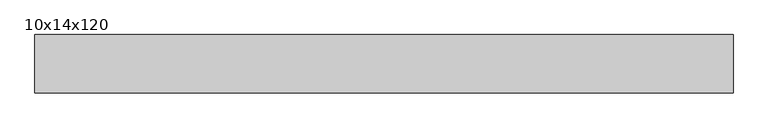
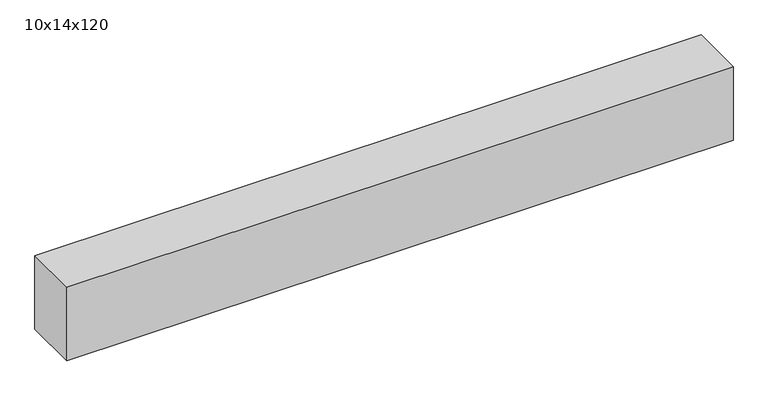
"""IFC4 building model written with IfcOpenShell, lengths in millimetres: beam geometry, Verga-vedacao : 10x14x120."""

from ifc_helpers import new_model, si_unit, frame, origin, place, context, project, spatial, polyline, outline, extrude, source, transform, mapped, element, save


def beam_10x14x120_9fcbaa63(model_context):
    return source(origin(), model_context, "Body", "SweptSolid", [
        extrude(outline(polyline([(600.0, 100.0), (600.0, 0.0), (-600.0, 0.0), (-600.0, 100.0), (600.0, 100.0)])), frame((0.0, 0.0, -140.0), z_axis=(0.0, 0.0, 1.0), x_axis=(1.0, 0.0, 0.0)), (0.0, 0.0, 1.0), 140.0),
    ])


if __name__ == "__main__":
    model = new_model("IFC4")
    model_context = context("Model", 3, world=origin())
    ifc_project = project(units=[si_unit("LENGTHUNIT", "METRE", prefix="MILLI")], contexts=[model_context])
    site = spatial("IfcSite", under=ifc_project)
    building = spatial("IfcBuilding", under=site)
    placement = place(None, origin())
    beam_10x14x120_shape = beam_10x14x120_9fcbaa63(model_context)
    element("IfcBeam", 1, ObjectType="Verga-vedacao : 10x14x120", at=placement, inside=building, context=model_context, shape_type="MappedRepresentation", body=[
        mapped(beam_10x14x120_shape, transform((0.0, 0.0, 0.0), x_axis=(1.0, 0.0, 0.0), y_axis=(0.0, 1.0, 0.0), z_axis=(0.0, 0.0, 1.0))),
    ])
    save(model, "model.ifc")
